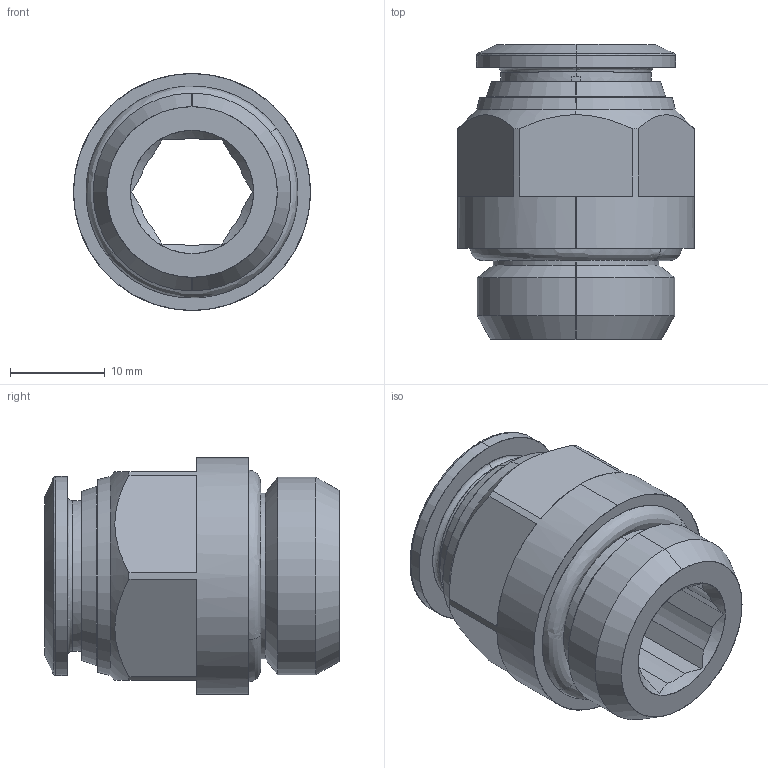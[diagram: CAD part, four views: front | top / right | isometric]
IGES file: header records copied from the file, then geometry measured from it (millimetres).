
Start section: SolidWorks IGES file using analytic representation for surfaces
Global section: file name: K:\Disegni Esecutivi\SERIE 40000\ASSIEMI\40020\IGES e STEP\40020V0025A.IGS; native system: SolidWorks 2020; preprocessor: SolidWorks 2020; author: CAD13; date: 241021.151218; units: millimetre
Bounding box: 25 x 31.1 x 25 mm (x, y, z)
Surface area: 4441.9 mm2 (no closed solid volume)
Topology: 0 solids, 0 shells, 85 faces, 1008 edges, 1008 vertices
Faces by surface type: bspline 43, revolution 42
